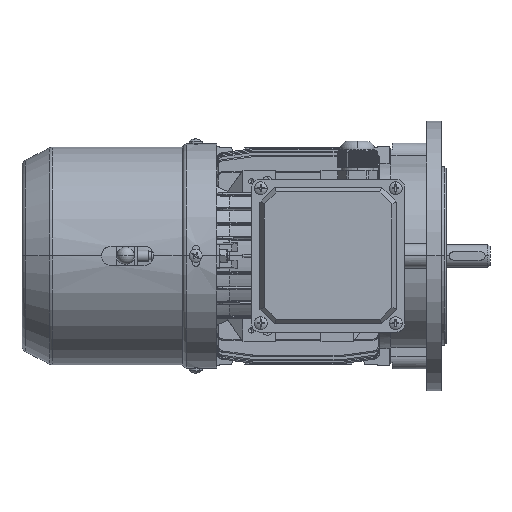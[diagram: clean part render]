
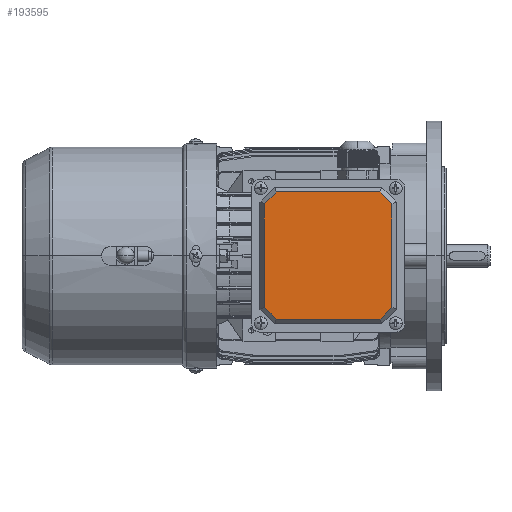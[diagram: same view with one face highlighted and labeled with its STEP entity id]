
A CAD part, top view. The second image highlights one B-rep face of the part: STEP entity #193595.
In plain terms, the highlighted planar face has unit normal (0, 0, 1).
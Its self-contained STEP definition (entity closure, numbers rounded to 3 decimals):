
#1203 = CARTESIAN_POINT ( 'NONE',  ( 33.462, -40.779, 109.794 ) ) ;
#3415 = CARTESIAN_POINT ( 'NONE',  ( 24.462, 40.45, 109.794 ) ) ;
#5651 = VERTEX_POINT ( 'NONE', #197389 ) ;
#5836 = CARTESIAN_POINT ( 'NONE',  ( -47.766, 34.221, 109.794 ) ) ;
#6941 = CARTESIAN_POINT ( 'NONE',  ( -47.766, 33.073, 109.794 ) ) ;
#11038 = ORIENTED_EDGE ( 'NONE', *, *, #17704, .T. ) ;
#12101 = LINE ( 'NONE', #109781, #142542 ) ;
#13914 = EDGE_CURVE ( 'NONE', #104444, #71256, #12101, .T. ) ;
#17085 = DIRECTION ( 'NONE',  ( 0.707, -0.707, 0. ) ) ;
#17704 = EDGE_CURVE ( 'NONE', #71256, #197623, #157726, .T. ) ;
#20105 = LINE ( 'NONE', #82650, #65742 ) ;
#21216 = EDGE_CURVE ( 'NONE', #5651, #32108, #20105, .T. ) ;
#28703 = VECTOR ( 'NONE', #115928, 1000. ) ;
#30998 = CARTESIAN_POINT ( 'NONE',  ( 30.691, 33.073, 109.794 ) ) ;
#31161 = DIRECTION ( 'NONE',  ( 0., 0., -1. ) ) ;
#32108 = VERTEX_POINT ( 'NONE', #154233 ) ;
#37427 = CARTESIAN_POINT ( 'NONE',  ( 30.691, -30.631, 109.794 ) ) ;
#48388 = ORIENTED_EDGE ( 'NONE', *, *, #55776, .T. ) ;
#49504 = DIRECTION ( 'NONE',  ( 0., -1., 0. ) ) ;
#53263 = FACE_OUTER_BOUND ( 'NONE', #123627, .T. ) ;
#55776 = EDGE_CURVE ( 'NONE', #32108, #104444, #105299, .T. ) ;
#62751 = ORIENTED_EDGE ( 'NONE', *, *, #21216, .T. ) ;
#65742 = VECTOR ( 'NONE', #17085, 1000. ) ;
#66187 = VECTOR ( 'NONE', #113694, 1000. ) ;
#71256 = VERTEX_POINT ( 'NONE', #37427 ) ;
#73358 = DIRECTION ( 'NONE',  ( 1., 0., 0. ) ) ;
#82650 = CARTESIAN_POINT ( 'NONE',  ( -39.578, -38.819, 109.794 ) ) ;
#82654 = ORIENTED_EDGE ( 'NONE', *, *, #133399, .T. ) ;
#84034 = VECTOR ( 'NONE', #96931, 1000. ) ;
#88719 = CARTESIAN_POINT ( 'NONE',  ( 24.462, -38.007, 109.794 ) ) ;
#93684 = CARTESIAN_POINT ( 'NONE',  ( 30.691, 34.221, 109.794 ) ) ;
#96931 = DIRECTION ( 'NONE',  ( -1., 0., 0. ) ) ;
#100166 = EDGE_CURVE ( 'NONE', #177198, #173483, #194424, .T. ) ;
#103247 = CARTESIAN_POINT ( 'NONE',  ( -40.39, 40.45, 109.794 ) ) ;
#104444 = VERTEX_POINT ( 'NONE', #138070 ) ;
#105066 = VERTEX_POINT ( 'NONE', #157815 ) ;
#105299 = LINE ( 'NONE', #88719, #189342 ) ;
#108202 = DIRECTION ( 'NONE',  ( 0., 1., 0. ) ) ;
#109781 = CARTESIAN_POINT ( 'NONE',  ( 31.503, -29.819, 109.794 ) ) ;
#113694 = DIRECTION ( 'NONE',  ( -0.707, 0.707, 0. ) ) ;
#115928 = DIRECTION ( 'NONE',  ( 0., -1., 0. ) ) ;
#116404 = VECTOR ( 'NONE', #117109, 1000. ) ;
#117109 = DIRECTION ( 'NONE',  ( -0.707, -0.707, 0. ) ) ;
#121151 = ORIENTED_EDGE ( 'NONE', *, *, #13914, .T. ) ;
#121533 = EDGE_CURVE ( 'NONE', #105066, #177198, #128035, .T. ) ;
#122267 = DIRECTION ( 'NONE',  ( 0.707, 0.707, 0. ) ) ;
#123627 = EDGE_LOOP ( 'NONE', ( #121151, #11038, #143411, #160798, #149138, #82654, #62751, #48388 ) ) ;
#128035 = LINE ( 'NONE', #3415, #84034 ) ;
#133399 = EDGE_CURVE ( 'NONE', #173483, #5651, #146953, .T. ) ;
#138070 = CARTESIAN_POINT ( 'NONE',  ( 23.315, -38.007, 109.794 ) ) ;
#140352 = PLANE ( 'NONE',  #187923 ) ;
#142542 = VECTOR ( 'NONE', #122267, 1000. ) ;
#143411 = ORIENTED_EDGE ( 'NONE', *, *, #156770, .T. ) ;
#146118 = VECTOR ( 'NONE', #108202, 1000. ) ;
#146953 = LINE ( 'NONE', #5836, #28703 ) ;
#149111 = CARTESIAN_POINT ( 'NONE',  ( -39.578, 41.262, 109.794 ) ) ;
#149138 = ORIENTED_EDGE ( 'NONE', *, *, #100166, .T. ) ;
#154233 = CARTESIAN_POINT ( 'NONE',  ( -40.39, -38.007, 109.794 ) ) ;
#156770 = EDGE_CURVE ( 'NONE', #197623, #105066, #179653, .T. ) ;
#157726 = LINE ( 'NONE', #93684, #146118 ) ;
#157815 = CARTESIAN_POINT ( 'NONE',  ( 23.315, 40.45, 109.794 ) ) ;
#160798 = ORIENTED_EDGE ( 'NONE', *, *, #121533, .T. ) ;
#173483 = VERTEX_POINT ( 'NONE', #6941 ) ;
#177198 = VERTEX_POINT ( 'NONE', #103247 ) ;
#178655 = CARTESIAN_POINT ( 'NONE',  ( 31.503, 32.262, 109.794 ) ) ;
#179653 = LINE ( 'NONE', #178655, #66187 ) ;
#187923 = AXIS2_PLACEMENT_3D ( 'NONE', #1203, #31161, #49504 ) ;
#189342 = VECTOR ( 'NONE', #73358, 1000. ) ;
#193595 = ADVANCED_FACE ( 'NONE', ( #53263 ), #140352, .F. ) ;
#194424 = LINE ( 'NONE', #149111, #116404 ) ;
#197389 = CARTESIAN_POINT ( 'NONE',  ( -47.766, -30.631, 109.794 ) ) ;
#197623 = VERTEX_POINT ( 'NONE', #30998 ) ;
